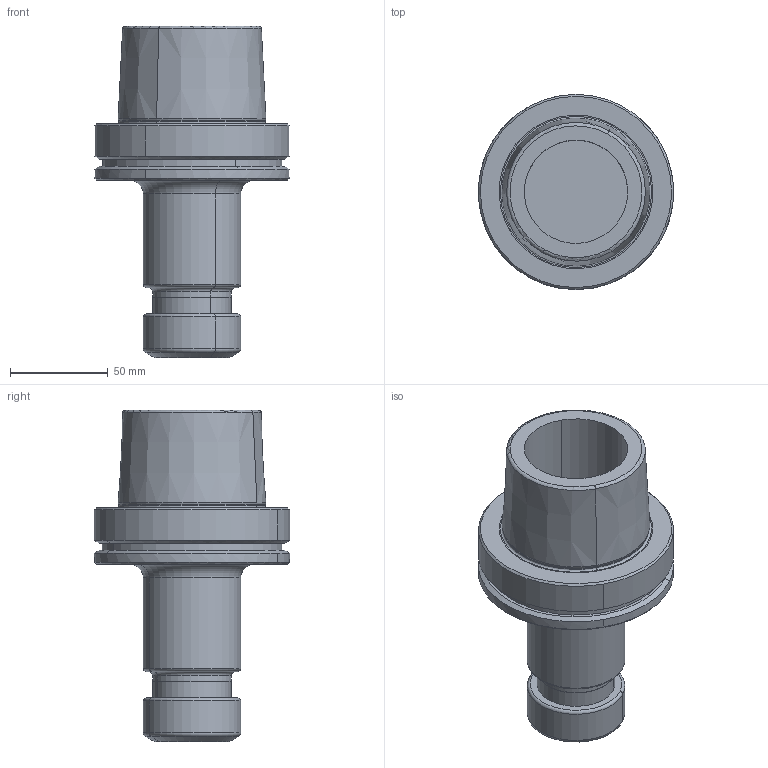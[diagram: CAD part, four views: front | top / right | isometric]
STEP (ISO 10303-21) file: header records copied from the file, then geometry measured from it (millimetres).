
FILE_DESCRIPTION(('CATIA V5 STEP','CAx-IF Rec.Pracs.--- Model Styling and Organization---1.2---2011-12-15'),'2;1');
FILE_NAME('\\nas01\drv1\utils\eitdev\rte\eit\transmagicconvert\db\out\635924134681184000\4561156-L-B.stp','2016-03-01T05:18:00+00:00',('none'),('none'),'CATIA Version 5 Release 21 SP 5 (IN-10)','CATIA V5 STEP AP214','none');
FILE_SCHEMA(('AUTOMOTIVE_DESIGN { 1 0 10303 214 1 1 1 1 }'));
Length unit declared in the file: millimetre
Products named in the file (1): HSK A 100 ER32X120
Bounding box: 99.97 x 100 x 170 mm (x, y, z)
Volume: 433905.6 mm3; surface area: 65741 mm2
Topology: 1 solids, 1 shells, 74 faces, 158 edges, 93 vertices
Faces by surface type: cylinder 24, cone 22, torus 18, plane 10
Entity records: 1872 total; most frequent: CARTESIAN_POINT 411, ORIENTED_EDGE 312, DIRECTION 238, EDGE_CURVE 156, AXIS2_PLACEMENT_3D 149, CIRCLE 104, VERTEX_POINT 93, EDGE_LOOP 83
